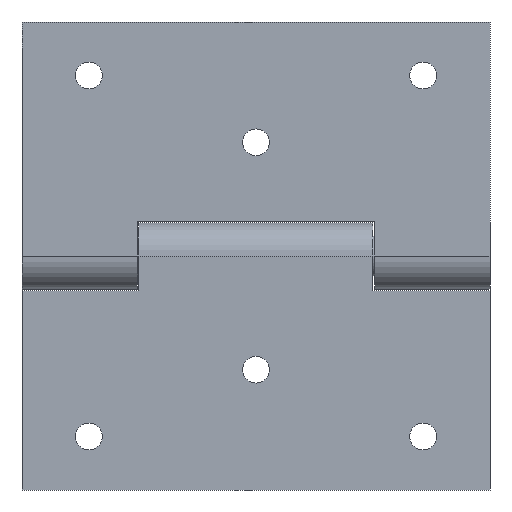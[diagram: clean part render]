
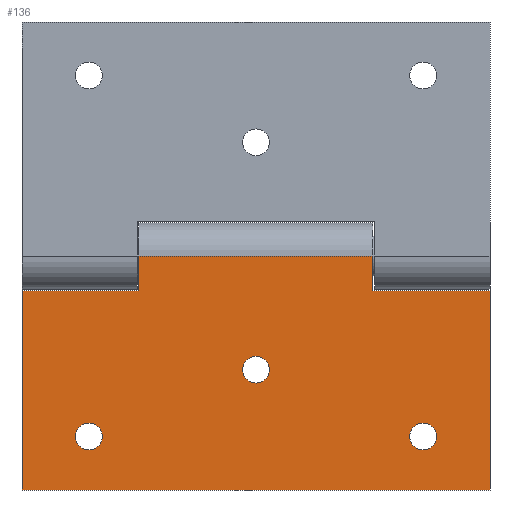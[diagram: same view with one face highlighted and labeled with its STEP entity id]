
A CAD part, front view. The second image highlights one B-rep face of the part: STEP entity #136.
In plain terms, the highlighted planar face has unit normal (0, -1, 0).
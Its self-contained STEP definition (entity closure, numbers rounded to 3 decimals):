
#136=ADVANCED_FACE('',(#202,#203,#204,#205),#206,.T.);
#202=FACE_BOUND('',#318,.T.);
#203=FACE_BOUND('',#319,.T.);
#204=FACE_BOUND('',#320,.T.);
#205=FACE_OUTER_BOUND('',#321,.T.);
#206=PLANE('',#322);
#318=EDGE_LOOP('',(#509,#510));
#319=EDGE_LOOP('',(#511,#512));
#320=EDGE_LOOP('',(#513,#514));
#321=EDGE_LOOP('',(#515,#516,#517,#518,#519,#520,#521,#522));
#322=AXIS2_PLACEMENT_3D('',#523,#524,#525);
#509=ORIENTED_EDGE('',*,*,#898,.T.);
#510=ORIENTED_EDGE('',*,*,#853,.T.);
#511=ORIENTED_EDGE('',*,*,#899,.T.);
#512=ORIENTED_EDGE('',*,*,#857,.T.);
#513=ORIENTED_EDGE('',*,*,#900,.T.);
#514=ORIENTED_EDGE('',*,*,#861,.T.);
#515=ORIENTED_EDGE('',*,*,#889,.T.);
#516=ORIENTED_EDGE('',*,*,#894,.T.);
#517=ORIENTED_EDGE('',*,*,#866,.F.);
#518=ORIENTED_EDGE('',*,*,#901,.T.);
#519=ORIENTED_EDGE('',*,*,#902,.T.);
#520=ORIENTED_EDGE('',*,*,#903,.T.);
#521=ORIENTED_EDGE('',*,*,#904,.T.);
#522=ORIENTED_EDGE('',*,*,#895,.T.);
#523=CARTESIAN_POINT('',(0.,-5.0,-35.0));
#524=DIRECTION('',(0.0,-1.0,0.));
#525=DIRECTION('',(0.,0.,-1.0));
#853=EDGE_CURVE('',#999,#996,#1000,.T.);
#857=EDGE_CURVE('',#1007,#1004,#1008,.T.);
#861=EDGE_CURVE('',#1015,#1012,#1016,.T.);
#866=EDGE_CURVE('',#1023,#1025,#1026,.T.);
#889=EDGE_CURVE('',#1066,#1064,#1067,.T.);
#894=EDGE_CURVE('',#1064,#1025,#1073,.T.);
#895=EDGE_CURVE('',#1074,#1066,#1075,.T.);
#898=EDGE_CURVE('',#996,#999,#1079,.T.);
#899=EDGE_CURVE('',#1004,#1007,#1080,.T.);
#900=EDGE_CURVE('',#1012,#1015,#1081,.T.);
#901=EDGE_CURVE('',#1023,#1082,#1083,.T.);
#902=EDGE_CURVE('',#1082,#1084,#1085,.T.);
#903=EDGE_CURVE('',#1084,#1086,#1087,.T.);
#904=EDGE_CURVE('',#1086,#1074,#1088,.T.);
#996=VERTEX_POINT('',#1236);
#999=VERTEX_POINT('',#1240);
#1000=CIRCLE('',#1241,2.0);
#1004=VERTEX_POINT('',#1246);
#1007=VERTEX_POINT('',#1250);
#1008=CIRCLE('',#1251,2.0);
#1012=VERTEX_POINT('',#1256);
#1015=VERTEX_POINT('',#1260);
#1016=CIRCLE('',#1261,2.0);
#1023=VERTEX_POINT('',#1270);
#1025=VERTEX_POINT('',#1272);
#1026=LINE('',#1273,#1274);
#1064=VERTEX_POINT('',#1320);
#1066=VERTEX_POINT('',#1323);
#1067=LINE('',#1324,#1325);
#1073=LINE('',#1334,#1335);
#1074=VERTEX_POINT('',#1336);
#1075=LINE('',#1337,#1338);
#1079=CIRCLE('',#1344,2.0);
#1080=CIRCLE('',#1345,2.0);
#1081=CIRCLE('',#1346,2.0);
#1082=VERTEX_POINT('',#1347);
#1083=LINE('',#1348,#1349);
#1084=VERTEX_POINT('',#1350);
#1085=LINE('',#1351,#1352);
#1086=VERTEX_POINT('',#1353);
#1087=LINE('',#1354,#1355);
#1088=LINE('',#1356,#1357);
#1236=CARTESIAN_POINT('',(10.0,-5.0,-29.0));
#1240=CARTESIAN_POINT('',(10.0,-5.0,-25.0));
#1241=AXIS2_PLACEMENT_3D('',#1557,#1558,#1559);
#1246=CARTESIAN_POINT('',(60.0,-5.0,-29.0));
#1250=CARTESIAN_POINT('',(60.0,-5.0,-25.0));
#1251=AXIS2_PLACEMENT_3D('',#1565,#1566,#1567);
#1256=CARTESIAN_POINT('',(35.0,-5.0,-19.0));
#1260=CARTESIAN_POINT('',(35.0,-5.0,-15.0));
#1261=AXIS2_PLACEMENT_3D('',#1573,#1574,#1575);
#1270=CARTESIAN_POINT('',(17.5,-5.0,0.));
#1272=CARTESIAN_POINT('',(52.5,-5.0,0.));
#1273=CARTESIAN_POINT('',(0.0,-5.0,0.));
#1274=VECTOR('',#1584,1.0);
#1320=CARTESIAN_POINT('',(52.5,-5.0,-5.2));
#1323=CARTESIAN_POINT('',(70.0,-5.0,-5.2));
#1324=CARTESIAN_POINT('',(30.625,-5.0,-5.2));
#1325=VECTOR('',#1633,1.0);
#1334=CARTESIAN_POINT('',(52.5,-5.0,-17.55));
#1335=VECTOR('',#1640,1.0);
#1336=CARTESIAN_POINT('',(70.0,-5.0,-35.0));
#1337=CARTESIAN_POINT('',(70.0,-5.0,0.));
#1338=VECTOR('',#1641,1.0);
#1344=AXIS2_PLACEMENT_3D('',#1644,#1645,#1646);
#1345=AXIS2_PLACEMENT_3D('',#1647,#1648,#1649);
#1346=AXIS2_PLACEMENT_3D('',#1650,#1651,#1652);
#1347=CARTESIAN_POINT('',(17.5,-5.0,-5.2));
#1348=CARTESIAN_POINT('',(17.5,-5.0,-17.55));
#1349=VECTOR('',#1653,1.0);
#1350=CARTESIAN_POINT('',(0.0,-5.0,-5.2));
#1351=CARTESIAN_POINT('',(4.375,-5.0,-5.2));
#1352=VECTOR('',#1654,1.0);
#1353=CARTESIAN_POINT('',(0.,-5.0,-35.0));
#1354=CARTESIAN_POINT('',(0.0,-5.0,0.));
#1355=VECTOR('',#1655,1.0);
#1356=CARTESIAN_POINT('',(0.,-5.0,-35.0));
#1357=VECTOR('',#1656,1.0);
#1557=CARTESIAN_POINT('',(10.0,-5.0,-27.0));
#1558=DIRECTION('',(0.,1.0,0.));
#1559=DIRECTION('',(0.,0.,-1.0));
#1565=CARTESIAN_POINT('',(60.0,-5.0,-27.0));
#1566=DIRECTION('',(0.,1.0,0.));
#1567=DIRECTION('',(0.,0.,-1.0));
#1573=CARTESIAN_POINT('',(35.0,-5.0,-17.0));
#1574=DIRECTION('',(0.,1.0,0.));
#1575=DIRECTION('',(0.,0.,-1.0));
#1584=DIRECTION('',(1.0,0.0,0.));
#1633=DIRECTION('',(-1.0,0.0,0.));
#1640=DIRECTION('',(0.,0.,1.0));
#1641=DIRECTION('',(0.,0.,1.0));
#1644=CARTESIAN_POINT('',(10.0,-5.0,-27.0));
#1645=DIRECTION('',(0.,1.0,0.));
#1646=DIRECTION('',(0.,0.,-1.0));
#1647=CARTESIAN_POINT('',(60.0,-5.0,-27.0));
#1648=DIRECTION('',(0.,1.0,0.));
#1649=DIRECTION('',(0.,0.,-1.0));
#1650=CARTESIAN_POINT('',(35.0,-5.0,-17.0));
#1651=DIRECTION('',(0.,1.0,0.));
#1652=DIRECTION('',(0.,0.,-1.0));
#1653=DIRECTION('',(0.,0.,-1.0));
#1654=DIRECTION('',(-1.0,0.0,0.));
#1655=DIRECTION('',(0.,0.,-1.0));
#1656=DIRECTION('',(1.0,0.0,0.));
